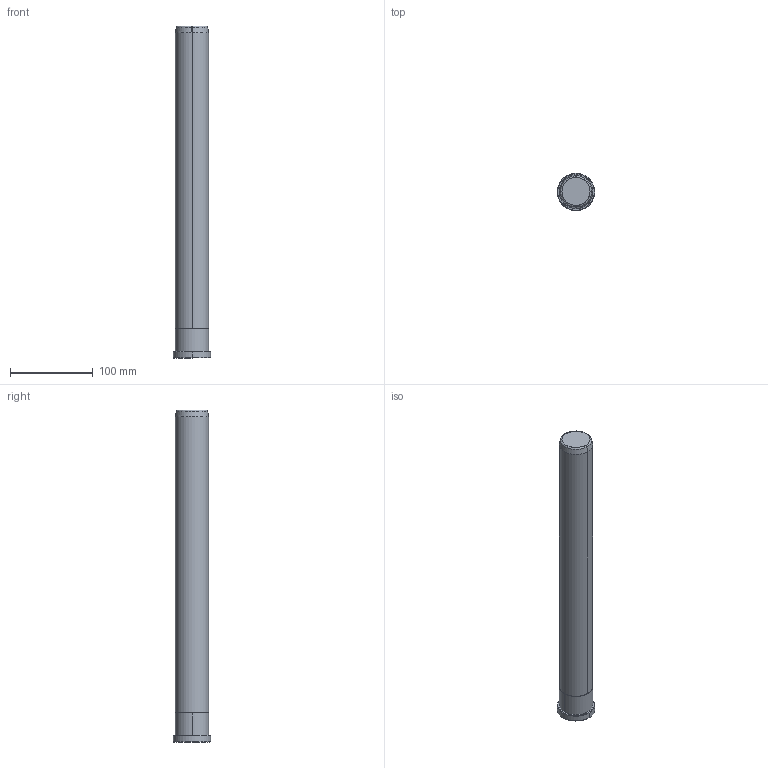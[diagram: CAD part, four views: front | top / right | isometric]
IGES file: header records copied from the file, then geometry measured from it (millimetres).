
Start section: START RECORD GO HERE.
Global section: file name: B80840400.igs; native system: DASSAULT SYSTEMES CATIA V5 R20 - www.3ds.com; preprocessor: CATIA Version 5 Release 20 ; author: Utente; organization: NB04-ASUS; date: 20200419.164431; units: millimetre
Bounding box: 45 x 45 x 400 mm (x, y, z)
Surface area: 53231.5 mm2 (no closed solid volume)
Topology: 0 solids, 0 shells, 20 faces, 80 edges, 80 vertices
Faces by surface type: revolution 16, plane 4
